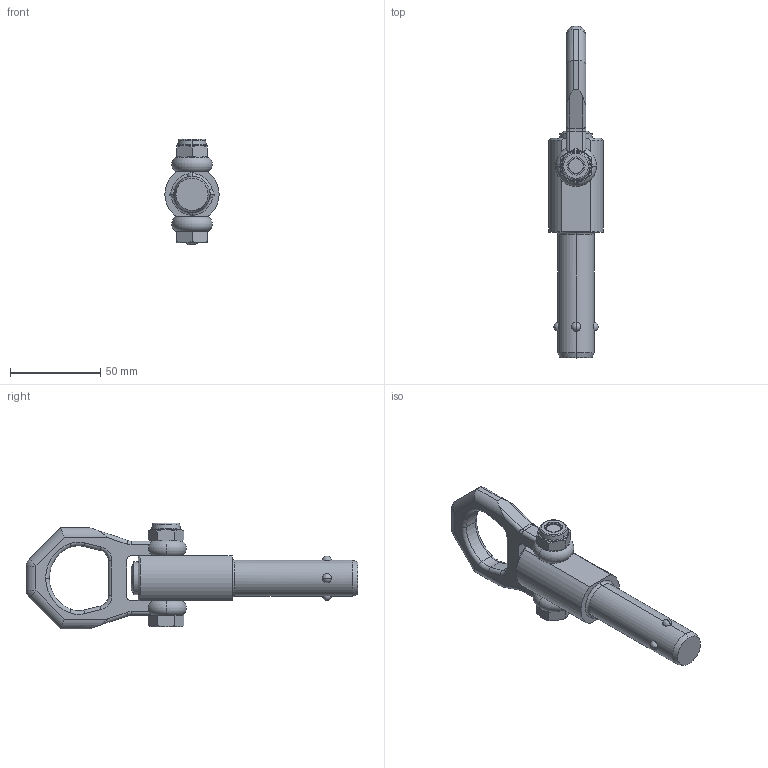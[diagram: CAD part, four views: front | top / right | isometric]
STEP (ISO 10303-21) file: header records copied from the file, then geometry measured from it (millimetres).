
FILE_DESCRIPTION (( 'STEP AP214' ), '1' );
FILE_NAME ('1130-20-75-NI.step', '2023-05-11T09:32:29', ( '' ), ( '' ), 'SwSTEP 2.0', 'SolidWorks 2022', '' );
FILE_SCHEMA (( 'AUTOMOTIVE_DESIGN' ));
Length unit declared in the file: millimetre
Products named in the file (3): 1130-20-75-NI; Kopie von bolzen^WB1130_NI_50; Kopie von bügel^WB1130_NI
Assembly tree (2 placements, depth 2):
  1130-20-75-NI
    Kopie von bolzen^WB1130_NI_50
    Kopie von bügel^WB1130_NI
Bounding box: 30 x 183.7 x 58.5 mm (x, y, z)
Volume: 84918.3 mm3; surface area: 21406.2 mm2
Topology: 2 solids, 2 shells, 194 faces, 480 edges, 292 vertices
Faces by surface type: cylinder 54, plane 48, torus 39, cone 39, sphere 8, bspline 6
Entity records: 6479 total; most frequent: CARTESIAN_POINT 1751, DIRECTION 983, ORIENTED_EDGE 912, EDGE_CURVE 456, AXIS2_PLACEMENT_3D 410, VERTEX_POINT 276, CIRCLE 217, EDGE_LOOP 210
